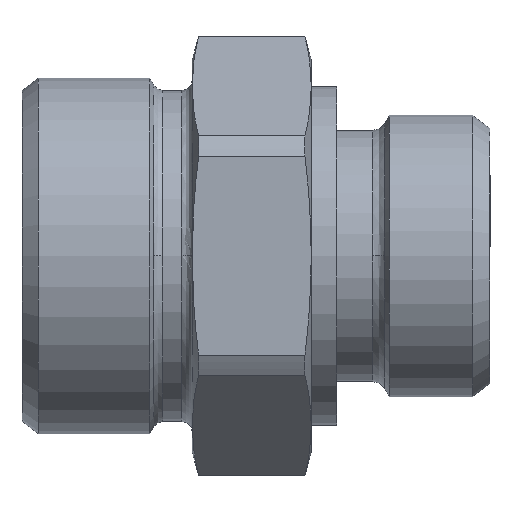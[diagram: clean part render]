
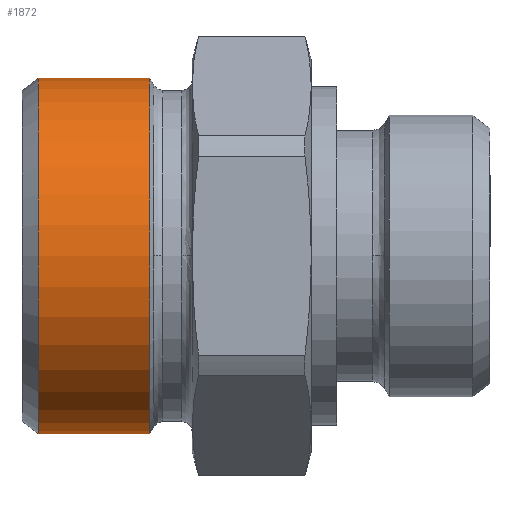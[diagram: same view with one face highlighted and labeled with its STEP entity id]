
A CAD part, top view. The second image highlights one B-rep face of the part: STEP entity #1872.
In plain terms, the highlighted cylindrical face has radius 20.91 mm (diameter 41.82 mm), a partial arc.
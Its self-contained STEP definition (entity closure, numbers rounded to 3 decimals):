
#908=CARTESIAN_POINT('',(0.,-20.91,25.063));
#909=VERTEX_POINT('',#908);
#910=CARTESIAN_POINT('',(0.,-20.91,11.993));
#911=VERTEX_POINT('',#910);
#912=CARTESIAN_POINT('',(0.,-20.91,25.063));
#913=DIRECTION('',(0.0,0.0,-1.0));
#914=VECTOR('',#913,13.07);
#915=LINE('',#912,#914);
#916=EDGE_CURVE('',#909,#911,#915,.T.);
#918=CARTESIAN_POINT('',(0.,20.91,25.063));
#919=VERTEX_POINT('',#918);
#927=CARTESIAN_POINT('',(0.,20.91,11.993));
#928=VERTEX_POINT('',#927);
#929=CARTESIAN_POINT('',(0.,20.91,11.993));
#930=DIRECTION('',(0.0,0.0,1.0));
#931=VECTOR('',#930,13.07);
#932=LINE('',#929,#931);
#933=EDGE_CURVE('',#928,#919,#932,.T.);
#1748=CARTESIAN_POINT('',(0.,0.,11.993));
#1749=DIRECTION('',(0.0,0.0,-1.0));
#1750=DIRECTION('',(0.0,-1.0,0.0));
#1751=AXIS2_PLACEMENT_3D('',#1748,#1749,#1750);
#1752=CIRCLE('',#1751,20.91);
#1753=EDGE_CURVE('',#928,#911,#1752,.T.);
#1849=CARTESIAN_POINT('',(0.,0.,25.063));
#1850=DIRECTION('',(0.0,0.0,-1.0));
#1851=DIRECTION('',(0.0,-1.0,0.0));
#1852=AXIS2_PLACEMENT_3D('',#1849,#1850,#1851);
#1853=CIRCLE('',#1852,20.91);
#1854=EDGE_CURVE('',#919,#909,#1853,.T.);
#1861=CARTESIAN_POINT('',(0.,0.,18.528));
#1862=DIRECTION('',(0.,0.,-1.0));
#1863=DIRECTION('',(0.0,-1.0,0.0));
#1864=AXIS2_PLACEMENT_3D('',#1861,#1862,#1863);
#1865=CYLINDRICAL_SURFACE('',#1864,20.91);
#1866=ORIENTED_EDGE('',*,*,#916,.T.);
#1867=ORIENTED_EDGE('',*,*,#1753,.F.);
#1868=ORIENTED_EDGE('',*,*,#933,.T.);
#1869=ORIENTED_EDGE('',*,*,#1854,.T.);
#1870=EDGE_LOOP('',(#1866,#1867,#1868,#1869));
#1871=FACE_OUTER_BOUND('',#1870,.T.);
#1872=ADVANCED_FACE('',(#1871),#1865,.T.);
